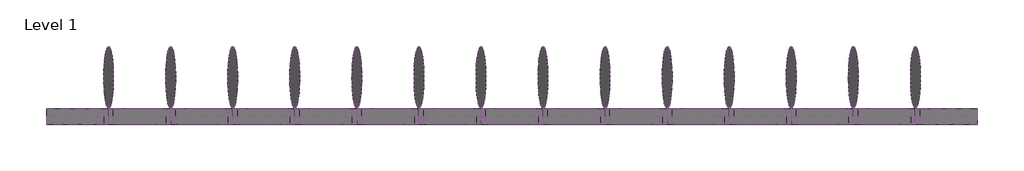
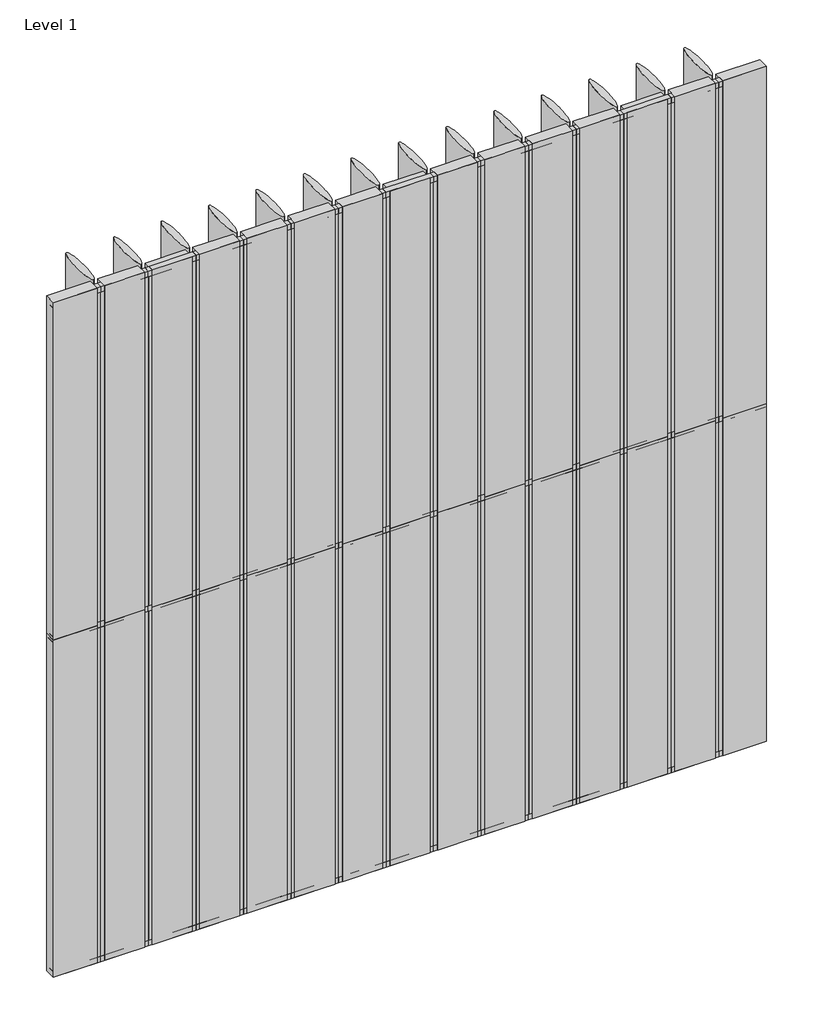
# One storey: 73 members, 60 plates.
"""IFC4 building model written with IfcOpenShell, lengths in millimetres."""

from ifc_helpers import new_model, si_unit, origin, place, context, project, spatial, transform, mapped, element, save
from components import rectangular_mullion_a010c3f5, rectangular_mullion_05cc9e47, rectangular_mullion_4a4034a1, rectangular_mullion_3c6e38bc, empty_system_panel_empty_62c335ea, empty_system_panel_empty_2a52b589, empty_system_panel_empty_361e841d

model = new_model("IFC4")

# Units and contexts
model_context = context("Model", 3, world=origin())
ifc_project = project(units=[si_unit("LENGTHUNIT", "METRE", prefix="MILLI")], contexts=[model_context])

# Site, building, storey
site = spatial("IfcSite", under=ifc_project)
building = spatial("IfcBuilding", under=site)
storey = spatial("IfcBuildingStorey", under=building, Name="Level 1", Elevation=0.0)

# Members
placement = place(None, origin())
rectangular_mullion_shape = rectangular_mullion_a010c3f5(model_context)
element("IfcMember", 1, ObjectType="Rectangular Mullion : RSen_21_CWM_blade - 400 ellips - 0°_gen_duco projects", at=placement, inside=storey, context=model_context, shape_type="MappedRepresentation", body=[
    mapped(rectangular_mullion_shape, transform((5600.0, 3000.0, 0.0), x_axis=(-1.0, 0.0, 0.0), y_axis=(0.0, 1.0, 0.0), z_axis=(0.0, 0.0, -1.0))),
])
element("IfcMember", 2, ObjectType="Rectangular Mullion : RSen_21_CWM_blade - 400 ellips - 0°_gen_duco projects", at=placement, inside=storey, context=model_context, shape_type="MappedRepresentation", body=[
    mapped(rectangular_mullion_shape, transform((5200.0, 3000.0, 0.0), x_axis=(-1.0, 0.0, 0.0), y_axis=(0.0, 1.0, 0.0), z_axis=(0.0, 0.0, -1.0))),
])
element("IfcMember", 3, ObjectType="Rectangular Mullion : RSen_21_CWM_blade - 400 ellips - 0°_gen_duco projects", at=placement, inside=storey, context=model_context, shape_type="MappedRepresentation", body=[
    mapped(rectangular_mullion_shape, transform((4800.0, 3000.0, 0.0), x_axis=(-1.0, 0.0, 0.0), y_axis=(0.0, 1.0, 0.0), z_axis=(0.0, 0.0, -1.0))),
])
element("IfcMember", 4, ObjectType="Rectangular Mullion : RSen_21_CWM_blade - 400 ellips - 0°_gen_duco projects", at=placement, inside=storey, context=model_context, shape_type="MappedRepresentation", body=[
    mapped(rectangular_mullion_shape, transform((4400.0, 3000.0, 0.0), x_axis=(-1.0, 0.0, 0.0), y_axis=(0.0, 1.0, 0.0), z_axis=(0.0, 0.0, -1.0))),
])
element("IfcMember", 5, ObjectType="Rectangular Mullion : RSen_21_CWM_blade - 400 ellips - 0°_gen_duco projects", at=placement, inside=storey, context=model_context, shape_type="MappedRepresentation", body=[
    mapped(rectangular_mullion_shape, transform((4000.0, 3000.0, 0.0), x_axis=(-1.0, 0.0, 0.0), y_axis=(0.0, 1.0, 0.0), z_axis=(0.0, 0.0, -1.0))),
])
element("IfcMember", 6, ObjectType="Rectangular Mullion : RSen_21_CWM_blade - 400 ellips - 0°_gen_duco projects", at=placement, inside=storey, context=model_context, shape_type="MappedRepresentation", body=[
    mapped(rectangular_mullion_shape, transform((3600.0, 3000.0, 0.0), x_axis=(-1.0, 0.0, 0.0), y_axis=(0.0, 1.0, 0.0), z_axis=(0.0, 0.0, -1.0))),
])
element("IfcMember", 7, ObjectType="Rectangular Mullion : RSen_21_CWM_blade - 400 ellips - 0°_gen_duco projects", at=placement, inside=storey, context=model_context, shape_type="MappedRepresentation", body=[
    mapped(rectangular_mullion_shape, transform((3200.0, 3000.0, 0.0), x_axis=(-1.0, 0.0, 0.0), y_axis=(0.0, 1.0, 0.0), z_axis=(0.0, 0.0, -1.0))),
])
element("IfcMember", 8, ObjectType="Rectangular Mullion : RSen_21_CWM_blade - 400 ellips - 0°_gen_duco projects", at=placement, inside=storey, context=model_context, shape_type="MappedRepresentation", body=[
    mapped(rectangular_mullion_shape, transform((2800.0, 3000.0, 0.0), x_axis=(-1.0, 0.0, 0.0), y_axis=(0.0, 1.0, 0.0), z_axis=(0.0, 0.0, -1.0))),
])
element("IfcMember", 9, ObjectType="Rectangular Mullion : RSen_21_CWM_blade - 400 ellips - 0°_gen_duco projects", at=placement, inside=storey, context=model_context, shape_type="MappedRepresentation", body=[
    mapped(rectangular_mullion_shape, transform((2400.0, 3000.0, 0.0), x_axis=(-1.0, 0.0, 0.0), y_axis=(0.0, 1.0, 0.0), z_axis=(0.0, 0.0, -1.0))),
])
element("IfcMember", 10, ObjectType="Rectangular Mullion : RSen_21_CWM_blade - 400 ellips - 0°_gen_duco projects", at=placement, inside=storey, context=model_context, shape_type="MappedRepresentation", body=[
    mapped(rectangular_mullion_shape, transform((2000.0, 3000.0, 0.0), x_axis=(-1.0, 0.0, 0.0), y_axis=(0.0, 1.0, 0.0), z_axis=(0.0, 0.0, -1.0))),
])
element("IfcMember", 11, ObjectType="Rectangular Mullion : RSen_21_CWM_blade - 400 ellips - 0°_gen_duco projects", at=placement, inside=storey, context=model_context, shape_type="MappedRepresentation", body=[
    mapped(rectangular_mullion_shape, transform((1600.0, 3000.0, 0.0), x_axis=(-1.0, 0.0, 0.0), y_axis=(0.0, 1.0, 0.0), z_axis=(0.0, 0.0, -1.0))),
])
element("IfcMember", 12, ObjectType="Rectangular Mullion : RSen_21_CWM_blade - 400 ellips - 0°_gen_duco projects", at=placement, inside=storey, context=model_context, shape_type="MappedRepresentation", body=[
    mapped(rectangular_mullion_shape, transform((1200.0, 3000.0, 0.0), x_axis=(-1.0, 0.0, 0.0), y_axis=(0.0, 1.0, 0.0), z_axis=(0.0, 0.0, -1.0))),
])
element("IfcMember", 13, ObjectType="Rectangular Mullion : RSen_21_CWM_blade - 400 ellips - 0°_gen_duco projects", at=placement, inside=storey, context=model_context, shape_type="MappedRepresentation", body=[
    mapped(rectangular_mullion_shape, transform((800.0, 3000.0, 0.0), x_axis=(-1.0, 0.0, 0.0), y_axis=(0.0, 1.0, 0.0), z_axis=(0.0, 0.0, -1.0))),
])
element("IfcMember", 14, ObjectType="Rectangular Mullion : RSen_21_CWM_blade - 400 ellips - 0°_gen_duco projects", at=placement, inside=storey, context=model_context, shape_type="MappedRepresentation", body=[
    mapped(rectangular_mullion_shape, transform((400.0, 3000.0, 0.0), x_axis=(-1.0, 0.0, 0.0), y_axis=(0.0, 1.0, 0.0), z_axis=(0.0, 0.0, -1.0))),
])
element("IfcMember", 15, ObjectType="Rectangular Mullion : RSen_21_CWM_blade - 400 ellips - 0°_gen_duco projects", at=placement, inside=storey, context=model_context, shape_type="MappedRepresentation", body=[
    mapped(rectangular_mullion_shape, transform((5600.0, 3000.0, 3000.0), x_axis=(-1.0, 0.0, 0.0), y_axis=(0.0, 1.0, 0.0), z_axis=(0.0, 0.0, -1.0))),
])
element("IfcMember", 16, ObjectType="Rectangular Mullion : RSen_21_CWM_blade - 400 ellips - 0°_gen_duco projects", at=placement, inside=storey, context=model_context, shape_type="MappedRepresentation", body=[
    mapped(rectangular_mullion_shape, transform((5200.0, 3000.0, 3000.0), x_axis=(-1.0, 0.0, 0.0), y_axis=(0.0, 1.0, 0.0), z_axis=(0.0, 0.0, -1.0))),
])
element("IfcMember", 17, ObjectType="Rectangular Mullion : RSen_21_CWM_blade - 400 ellips - 0°_gen_duco projects", at=placement, inside=storey, context=model_context, shape_type="MappedRepresentation", body=[
    mapped(rectangular_mullion_shape, transform((4800.0, 3000.0, 3000.0), x_axis=(-1.0, 0.0, 0.0), y_axis=(0.0, 1.0, 0.0), z_axis=(0.0, 0.0, -1.0))),
])
element("IfcMember", 18, ObjectType="Rectangular Mullion : RSen_21_CWM_blade - 400 ellips - 0°_gen_duco projects", at=placement, inside=storey, context=model_context, shape_type="MappedRepresentation", body=[
    mapped(rectangular_mullion_shape, transform((4400.0, 3000.0, 3000.0), x_axis=(-1.0, 0.0, 0.0), y_axis=(0.0, 1.0, 0.0), z_axis=(0.0, 0.0, -1.0))),
])
element("IfcMember", 19, ObjectType="Rectangular Mullion : RSen_21_CWM_blade - 400 ellips - 0°_gen_duco projects", at=placement, inside=storey, context=model_context, shape_type="MappedRepresentation", body=[
    mapped(rectangular_mullion_shape, transform((4000.0, 3000.0, 3000.0), x_axis=(-1.0, 0.0, 0.0), y_axis=(0.0, 1.0, 0.0), z_axis=(0.0, 0.0, -1.0))),
])
element("IfcMember", 20, ObjectType="Rectangular Mullion : RSen_21_CWM_blade - 400 ellips - 0°_gen_duco projects", at=placement, inside=storey, context=model_context, shape_type="MappedRepresentation", body=[
    mapped(rectangular_mullion_shape, transform((3600.0, 3000.0, 3000.0), x_axis=(-1.0, 0.0, 0.0), y_axis=(0.0, 1.0, 0.0), z_axis=(0.0, 0.0, -1.0))),
])
element("IfcMember", 21, ObjectType="Rectangular Mullion : RSen_21_CWM_blade - 400 ellips - 0°_gen_duco projects", at=placement, inside=storey, context=model_context, shape_type="MappedRepresentation", body=[
    mapped(rectangular_mullion_shape, transform((3200.0, 3000.0, 3000.0), x_axis=(-1.0, 0.0, 0.0), y_axis=(0.0, 1.0, 0.0), z_axis=(0.0, 0.0, -1.0))),
])
element("IfcMember", 22, ObjectType="Rectangular Mullion : RSen_21_CWM_blade - 400 ellips - 0°_gen_duco projects", at=placement, inside=storey, context=model_context, shape_type="MappedRepresentation", body=[
    mapped(rectangular_mullion_shape, transform((2800.0, 3000.0, 3000.0), x_axis=(-1.0, 0.0, 0.0), y_axis=(0.0, 1.0, 0.0), z_axis=(0.0, 0.0, -1.0))),
])
element("IfcMember", 23, ObjectType="Rectangular Mullion : RSen_21_CWM_blade - 400 ellips - 0°_gen_duco projects", at=placement, inside=storey, context=model_context, shape_type="MappedRepresentation", body=[
    mapped(rectangular_mullion_shape, transform((2400.0, 3000.0, 3000.0), x_axis=(-1.0, 0.0, 0.0), y_axis=(0.0, 1.0, 0.0), z_axis=(0.0, 0.0, -1.0))),
])
element("IfcMember", 24, ObjectType="Rectangular Mullion : RSen_21_CWM_blade - 400 ellips - 0°_gen_duco projects", at=placement, inside=storey, context=model_context, shape_type="MappedRepresentation", body=[
    mapped(rectangular_mullion_shape, transform((2000.0, 3000.0, 3000.0), x_axis=(-1.0, 0.0, 0.0), y_axis=(0.0, 1.0, 0.0), z_axis=(0.0, 0.0, -1.0))),
])
element("IfcMember", 25, ObjectType="Rectangular Mullion : RSen_21_CWM_blade - 400 ellips - 0°_gen_duco projects", at=placement, inside=storey, context=model_context, shape_type="MappedRepresentation", body=[
    mapped(rectangular_mullion_shape, transform((1600.0, 3000.0, 3000.0), x_axis=(-1.0, 0.0, 0.0), y_axis=(0.0, 1.0, 0.0), z_axis=(0.0, 0.0, -1.0))),
])
element("IfcMember", 26, ObjectType="Rectangular Mullion : RSen_21_CWM_blade - 400 ellips - 0°_gen_duco projects", at=placement, inside=storey, context=model_context, shape_type="MappedRepresentation", body=[
    mapped(rectangular_mullion_shape, transform((1200.0, 3000.0, 3000.0), x_axis=(-1.0, 0.0, 0.0), y_axis=(0.0, 1.0, 0.0), z_axis=(0.0, 0.0, -1.0))),
])
element("IfcMember", 27, ObjectType="Rectangular Mullion : RSen_21_CWM_blade - 400 ellips - 0°_gen_duco projects", at=placement, inside=storey, context=model_context, shape_type="MappedRepresentation", body=[
    mapped(rectangular_mullion_shape, transform((800.0, 3000.0, 3000.0), x_axis=(-1.0, 0.0, 0.0), y_axis=(0.0, 1.0, 0.0), z_axis=(0.0, 0.0, -1.0))),
])
element("IfcMember", 28, ObjectType="Rectangular Mullion : RSen_21_CWM_blade - 400 ellips - 0°_gen_duco projects", at=placement, inside=storey, context=model_context, shape_type="MappedRepresentation", body=[
    mapped(rectangular_mullion_shape, transform((400.0, 3000.0, 3000.0), x_axis=(-1.0, 0.0, 0.0), y_axis=(0.0, 1.0, 0.0), z_axis=(0.0, 0.0, -1.0))),
])
rectangular_mullion_2_shape = rectangular_mullion_05cc9e47(model_context)
element("IfcMember", 29, ObjectType="Rectangular Mullion : RSen_21_CWM_support profile 50x50 - left_gen_duco projects", at=placement, inside=storey, context=model_context, shape_type="MappedRepresentation", body=[
    mapped(rectangular_mullion_2_shape, transform((0.0, 3000.0, 6000.0), x_axis=(0.0, 0.0, 1.0), y_axis=(0.0, 1.0, 0.0), z_axis=(-1.0, 0.0, 0.0))),
])
rectangular_mullion_3_shape = rectangular_mullion_4a4034a1(model_context)
element("IfcMember", 30, ObjectType="Rectangular Mullion : RSen_21_CWM_support profile 50x50 - right_gen_duco projects", at=placement, inside=storey, context=model_context, shape_type="MappedRepresentation", body=[
    mapped(rectangular_mullion_3_shape, transform((6000.0, 3000.0, 0.0), x_axis=(0.0, 0.0, -1.0), y_axis=(0.0, 1.0, 0.0), z_axis=(1.0, 0.0, 0.0))),
])
element("IfcMember", 31, ObjectType="Rectangular Mullion : RSen_21_CWM_support profile 50x50 - left_gen_duco projects", at=placement, inside=storey, context=model_context, shape_type="MappedRepresentation", body=[
    mapped(rectangular_mullion_2_shape, transform((5600.0, 3000.0, 6000.0), x_axis=(0.0, 0.0, 1.0), y_axis=(0.0, 1.0, 0.0), z_axis=(-1.0, 0.0, 0.0))),
])
element("IfcMember", 32, ObjectType="Rectangular Mullion : RSen_21_CWM_support profile 50x50 - left_gen_duco projects", at=placement, inside=storey, context=model_context, shape_type="MappedRepresentation", body=[
    mapped(rectangular_mullion_2_shape, transform((5200.0, 3000.0, 6000.0), x_axis=(0.0, 0.0, 1.0), y_axis=(0.0, 1.0, 0.0), z_axis=(-1.0, 0.0, 0.0))),
])
element("IfcMember", 33, ObjectType="Rectangular Mullion : RSen_21_CWM_support profile 50x50 - left_gen_duco projects", at=placement, inside=storey, context=model_context, shape_type="MappedRepresentation", body=[
    mapped(rectangular_mullion_2_shape, transform((4800.0, 3000.0, 6000.0), x_axis=(0.0, 0.0, 1.0), y_axis=(0.0, 1.0, 0.0), z_axis=(-1.0, 0.0, 0.0))),
])
element("IfcMember", 34, ObjectType="Rectangular Mullion : RSen_21_CWM_support profile 50x50 - left_gen_duco projects", at=placement, inside=storey, context=model_context, shape_type="MappedRepresentation", body=[
    mapped(rectangular_mullion_2_shape, transform((4400.0, 3000.0, 6000.0), x_axis=(0.0, 0.0, 1.0), y_axis=(0.0, 1.0, 0.0), z_axis=(-1.0, 0.0, 0.0))),
])
element("IfcMember", 35, ObjectType="Rectangular Mullion : RSen_21_CWM_support profile 50x50 - left_gen_duco projects", at=placement, inside=storey, context=model_context, shape_type="MappedRepresentation", body=[
    mapped(rectangular_mullion_2_shape, transform((4000.0, 3000.0, 6000.0), x_axis=(0.0, 0.0, 1.0), y_axis=(0.0, 1.0, 0.0), z_axis=(-1.0, 0.0, 0.0))),
])
element("IfcMember", 36, ObjectType="Rectangular Mullion : RSen_21_CWM_support profile 50x50 - left_gen_duco projects", at=placement, inside=storey, context=model_context, shape_type="MappedRepresentation", body=[
    mapped(rectangular_mullion_2_shape, transform((3600.0, 3000.0, 6000.0), x_axis=(0.0, 0.0, 1.0), y_axis=(0.0, 1.0, 0.0), z_axis=(-1.0, 0.0, 0.0))),
])
element("IfcMember", 37, ObjectType="Rectangular Mullion : RSen_21_CWM_support profile 50x50 - left_gen_duco projects", at=placement, inside=storey, context=model_context, shape_type="MappedRepresentation", body=[
    mapped(rectangular_mullion_2_shape, transform((3200.0, 3000.0, 6000.0), x_axis=(0.0, 0.0, 1.0), y_axis=(0.0, 1.0, 0.0), z_axis=(-1.0, 0.0, 0.0))),
])
element("IfcMember", 38, ObjectType="Rectangular Mullion : RSen_21_CWM_support profile 50x50 - left_gen_duco projects", at=placement, inside=storey, context=model_context, shape_type="MappedRepresentation", body=[
    mapped(rectangular_mullion_2_shape, transform((2800.0, 3000.0, 6000.0), x_axis=(0.0, 0.0, 1.0), y_axis=(0.0, 1.0, 0.0), z_axis=(-1.0, 0.0, 0.0))),
])
element("IfcMember", 39, ObjectType="Rectangular Mullion : RSen_21_CWM_support profile 50x50 - left_gen_duco projects", at=placement, inside=storey, context=model_context, shape_type="MappedRepresentation", body=[
    mapped(rectangular_mullion_2_shape, transform((2400.0, 3000.0, 6000.0), x_axis=(0.0, 0.0, 1.0), y_axis=(0.0, 1.0, 0.0), z_axis=(-1.0, 0.0, 0.0))),
])
element("IfcMember", 40, ObjectType="Rectangular Mullion : RSen_21_CWM_support profile 50x50 - left_gen_duco projects", at=placement, inside=storey, context=model_context, shape_type="MappedRepresentation", body=[
    mapped(rectangular_mullion_2_shape, transform((2000.0, 3000.0, 6000.0), x_axis=(0.0, 0.0, 1.0), y_axis=(0.0, 1.0, 0.0), z_axis=(-1.0, 0.0, 0.0))),
])
element("IfcMember", 41, ObjectType="Rectangular Mullion : RSen_21_CWM_support profile 50x50 - left_gen_duco projects", at=placement, inside=storey, context=model_context, shape_type="MappedRepresentation", body=[
    mapped(rectangular_mullion_2_shape, transform((1600.0, 3000.0, 6000.0), x_axis=(0.0, 0.0, 1.0), y_axis=(0.0, 1.0, 0.0), z_axis=(-1.0, 0.0, 0.0))),
])
element("IfcMember", 42, ObjectType="Rectangular Mullion : RSen_21_CWM_support profile 50x50 - left_gen_duco projects", at=placement, inside=storey, context=model_context, shape_type="MappedRepresentation", body=[
    mapped(rectangular_mullion_2_shape, transform((1200.0, 3000.0, 6000.0), x_axis=(0.0, 0.0, 1.0), y_axis=(0.0, 1.0, 0.0), z_axis=(-1.0, 0.0, 0.0))),
])
element("IfcMember", 43, ObjectType="Rectangular Mullion : RSen_21_CWM_support profile 50x50 - left_gen_duco projects", at=placement, inside=storey, context=model_context, shape_type="MappedRepresentation", body=[
    mapped(rectangular_mullion_2_shape, transform((800.0, 3000.0, 6000.0), x_axis=(0.0, 0.0, 1.0), y_axis=(0.0, 1.0, 0.0), z_axis=(-1.0, 0.0, 0.0))),
])
element("IfcMember", 44, ObjectType="Rectangular Mullion : RSen_21_CWM_support profile 50x50 - left_gen_duco projects", at=placement, inside=storey, context=model_context, shape_type="MappedRepresentation", body=[
    mapped(rectangular_mullion_2_shape, transform((400.0, 3000.0, 6000.0), x_axis=(0.0, 0.0, 1.0), y_axis=(0.0, 1.0, 0.0), z_axis=(-1.0, 0.0, 0.0))),
])
element("IfcMember", 45, ObjectType="Rectangular Mullion : RSen_21_CWM_support profile 50x50 - right_gen_duco projects", at=placement, inside=storey, context=model_context, shape_type="MappedRepresentation", body=[
    mapped(rectangular_mullion_3_shape, transform((5600.0, 3000.0, 0.0), x_axis=(0.0, 0.0, -1.0), y_axis=(0.0, 1.0, 0.0), z_axis=(1.0, 0.0, 0.0))),
])
element("IfcMember", 46, ObjectType="Rectangular Mullion : RSen_21_CWM_support profile 50x50 - right_gen_duco projects", at=placement, inside=storey, context=model_context, shape_type="MappedRepresentation", body=[
    mapped(rectangular_mullion_3_shape, transform((5200.0, 3000.0, 0.0), x_axis=(0.0, 0.0, -1.0), y_axis=(0.0, 1.0, 0.0), z_axis=(1.0, 0.0, 0.0))),
])
element("IfcMember", 47, ObjectType="Rectangular Mullion : RSen_21_CWM_support profile 50x50 - right_gen_duco projects", at=placement, inside=storey, context=model_context, shape_type="MappedRepresentation", body=[
    mapped(rectangular_mullion_3_shape, transform((4800.0, 3000.0, 0.0), x_axis=(0.0, 0.0, -1.0), y_axis=(0.0, 1.0, 0.0), z_axis=(1.0, 0.0, 0.0))),
])
element("IfcMember", 48, ObjectType="Rectangular Mullion : RSen_21_CWM_support profile 50x50 - right_gen_duco projects", at=placement, inside=storey, context=model_context, shape_type="MappedRepresentation", body=[
    mapped(rectangular_mullion_3_shape, transform((4400.0, 3000.0, 0.0), x_axis=(0.0, 0.0, -1.0), y_axis=(0.0, 1.0, 0.0), z_axis=(1.0, 0.0, 0.0))),
])
element("IfcMember", 49, ObjectType="Rectangular Mullion : RSen_21_CWM_support profile 50x50 - right_gen_duco projects", at=placement, inside=storey, context=model_context, shape_type="MappedRepresentation", body=[
    mapped(rectangular_mullion_3_shape, transform((4000.0, 3000.0, 0.0), x_axis=(0.0, 0.0, -1.0), y_axis=(0.0, 1.0, 0.0), z_axis=(1.0, 0.0, 0.0))),
])
element("IfcMember", 50, ObjectType="Rectangular Mullion : RSen_21_CWM_support profile 50x50 - right_gen_duco projects", at=placement, inside=storey, context=model_context, shape_type="MappedRepresentation", body=[
    mapped(rectangular_mullion_3_shape, transform((3600.0, 3000.0, 0.0), x_axis=(0.0, 0.0, -1.0), y_axis=(0.0, 1.0, 0.0), z_axis=(1.0, 0.0, 0.0))),
])
element("IfcMember", 51, ObjectType="Rectangular Mullion : RSen_21_CWM_support profile 50x50 - right_gen_duco projects", at=placement, inside=storey, context=model_context, shape_type="MappedRepresentation", body=[
    mapped(rectangular_mullion_3_shape, transform((3200.0, 3000.0, 0.0), x_axis=(0.0, 0.0, -1.0), y_axis=(0.0, 1.0, 0.0), z_axis=(1.0, 0.0, 0.0))),
])
element("IfcMember", 52, ObjectType="Rectangular Mullion : RSen_21_CWM_support profile 50x50 - right_gen_duco projects", at=placement, inside=storey, context=model_context, shape_type="MappedRepresentation", body=[
    mapped(rectangular_mullion_3_shape, transform((2800.0, 3000.0, 0.0), x_axis=(0.0, 0.0, -1.0), y_axis=(0.0, 1.0, 0.0), z_axis=(1.0, 0.0, 0.0))),
])
element("IfcMember", 53, ObjectType="Rectangular Mullion : RSen_21_CWM_support profile 50x50 - right_gen_duco projects", at=placement, inside=storey, context=model_context, shape_type="MappedRepresentation", body=[
    mapped(rectangular_mullion_3_shape, transform((2400.0, 3000.0, 0.0), x_axis=(0.0, 0.0, -1.0), y_axis=(0.0, 1.0, 0.0), z_axis=(1.0, 0.0, 0.0))),
])
element("IfcMember", 54, ObjectType="Rectangular Mullion : RSen_21_CWM_support profile 50x50 - right_gen_duco projects", at=placement, inside=storey, context=model_context, shape_type="MappedRepresentation", body=[
    mapped(rectangular_mullion_3_shape, transform((2000.0, 3000.0, 0.0), x_axis=(0.0, 0.0, -1.0), y_axis=(0.0, 1.0, 0.0), z_axis=(1.0, 0.0, 0.0))),
])
element("IfcMember", 55, ObjectType="Rectangular Mullion : RSen_21_CWM_support profile 50x50 - right_gen_duco projects", at=placement, inside=storey, context=model_context, shape_type="MappedRepresentation", body=[
    mapped(rectangular_mullion_3_shape, transform((1600.0, 3000.0, 0.0), x_axis=(0.0, 0.0, -1.0), y_axis=(0.0, 1.0, 0.0), z_axis=(1.0, 0.0, 0.0))),
])
element("IfcMember", 56, ObjectType="Rectangular Mullion : RSen_21_CWM_support profile 50x50 - right_gen_duco projects", at=placement, inside=storey, context=model_context, shape_type="MappedRepresentation", body=[
    mapped(rectangular_mullion_3_shape, transform((1200.0, 3000.0, 0.0), x_axis=(0.0, 0.0, -1.0), y_axis=(0.0, 1.0, 0.0), z_axis=(1.0, 0.0, 0.0))),
])
element("IfcMember", 57, ObjectType="Rectangular Mullion : RSen_21_CWM_support profile 50x50 - right_gen_duco projects", at=placement, inside=storey, context=model_context, shape_type="MappedRepresentation", body=[
    mapped(rectangular_mullion_3_shape, transform((800.0, 3000.0, 0.0), x_axis=(0.0, 0.0, -1.0), y_axis=(0.0, 1.0, 0.0), z_axis=(1.0, 0.0, 0.0))),
])
element("IfcMember", 58, ObjectType="Rectangular Mullion : RSen_21_CWM_support profile 50x50 - right_gen_duco projects", at=placement, inside=storey, context=model_context, shape_type="MappedRepresentation", body=[
    mapped(rectangular_mullion_3_shape, transform((400.0, 3000.0, 0.0), x_axis=(0.0, 0.0, -1.0), y_axis=(0.0, 1.0, 0.0), z_axis=(1.0, 0.0, 0.0))),
])
rectangular_mullion_4_shape = rectangular_mullion_3c6e38bc(model_context)
element("IfcMember", 59, ObjectType="Rectangular Mullion : RSen_21_CWM_support profile 50x50_gen_duco projects", at=placement, inside=storey, context=model_context, shape_type="MappedRepresentation", body=[
    mapped(rectangular_mullion_4_shape, transform((5600.0, 3000.0, 3000.0), x_axis=(0.0, 0.0, 1.0), y_axis=(0.0, 1.0, 0.0), z_axis=(-1.0, 0.0, 0.0))),
])
element("IfcMember", 60, ObjectType="Rectangular Mullion : RSen_21_CWM_support profile 50x50_gen_duco projects", at=placement, inside=storey, context=model_context, shape_type="MappedRepresentation", body=[
    mapped(rectangular_mullion_4_shape, transform((5200.0, 3000.0, 3000.0), x_axis=(0.0, 0.0, 1.0), y_axis=(0.0, 1.0, 0.0), z_axis=(-1.0, 0.0, 0.0))),
])
element("IfcMember", 61, ObjectType="Rectangular Mullion : RSen_21_CWM_support profile 50x50_gen_duco projects", at=placement, inside=storey, context=model_context, shape_type="MappedRepresentation", body=[
    mapped(rectangular_mullion_4_shape, transform((4800.0, 3000.0, 3000.0), x_axis=(0.0, 0.0, 1.0), y_axis=(0.0, 1.0, 0.0), z_axis=(-1.0, 0.0, 0.0))),
])
element("IfcMember", 62, ObjectType="Rectangular Mullion : RSen_21_CWM_support profile 50x50_gen_duco projects", at=placement, inside=storey, context=model_context, shape_type="MappedRepresentation", body=[
    mapped(rectangular_mullion_4_shape, transform((4400.0, 3000.0, 3000.0), x_axis=(0.0, 0.0, 1.0), y_axis=(0.0, 1.0, 0.0), z_axis=(-1.0, 0.0, 0.0))),
])
element("IfcMember", 63, ObjectType="Rectangular Mullion : RSen_21_CWM_support profile 50x50_gen_duco projects", at=placement, inside=storey, context=model_context, shape_type="MappedRepresentation", body=[
    mapped(rectangular_mullion_4_shape, transform((4000.0, 3000.0, 3000.0), x_axis=(0.0, 0.0, 1.0), y_axis=(0.0, 1.0, 0.0), z_axis=(-1.0, 0.0, 0.0))),
])
element("IfcMember", 64, ObjectType="Rectangular Mullion : RSen_21_CWM_support profile 50x50_gen_duco projects", at=placement, inside=storey, context=model_context, shape_type="MappedRepresentation", body=[
    mapped(rectangular_mullion_4_shape, transform((3600.0, 3000.0, 3000.0), x_axis=(0.0, 0.0, 1.0), y_axis=(0.0, 1.0, 0.0), z_axis=(-1.0, 0.0, 0.0))),
])
element("IfcMember", 65, ObjectType="Rectangular Mullion : RSen_21_CWM_support profile 50x50_gen_duco projects", at=placement, inside=storey, context=model_context, shape_type="MappedRepresentation", body=[
    mapped(rectangular_mullion_4_shape, transform((3200.0, 3000.0, 3000.0), x_axis=(0.0, 0.0, 1.0), y_axis=(0.0, 1.0, 0.0), z_axis=(-1.0, 0.0, 0.0))),
])
element("IfcMember", 66, ObjectType="Rectangular Mullion : RSen_21_CWM_support profile 50x50_gen_duco projects", at=placement, inside=storey, context=model_context, shape_type="MappedRepresentation", body=[
    mapped(rectangular_mullion_4_shape, transform((2800.0, 3000.0, 3000.0), x_axis=(0.0, 0.0, 1.0), y_axis=(0.0, 1.0, 0.0), z_axis=(-1.0, 0.0, 0.0))),
])
element("IfcMember", 67, ObjectType="Rectangular Mullion : RSen_21_CWM_support profile 50x50_gen_duco projects", at=placement, inside=storey, context=model_context, shape_type="MappedRepresentation", body=[
    mapped(rectangular_mullion_4_shape, transform((2400.0, 3000.0, 3000.0), x_axis=(0.0, 0.0, 1.0), y_axis=(0.0, 1.0, 0.0), z_axis=(-1.0, 0.0, 0.0))),
])
element("IfcMember", 68, ObjectType="Rectangular Mullion : RSen_21_CWM_support profile 50x50_gen_duco projects", at=placement, inside=storey, context=model_context, shape_type="MappedRepresentation", body=[
    mapped(rectangular_mullion_4_shape, transform((2000.0, 3000.0, 3000.0), x_axis=(0.0, 0.0, 1.0), y_axis=(0.0, 1.0, 0.0), z_axis=(-1.0, 0.0, 0.0))),
])
element("IfcMember", 69, ObjectType="Rectangular Mullion : RSen_21_CWM_support profile 50x50_gen_duco projects", at=placement, inside=storey, context=model_context, shape_type="MappedRepresentation", body=[
    mapped(rectangular_mullion_4_shape, transform((1600.0, 3000.0, 3000.0), x_axis=(0.0, 0.0, 1.0), y_axis=(0.0, 1.0, 0.0), z_axis=(-1.0, 0.0, 0.0))),
])
element("IfcMember", 70, ObjectType="Rectangular Mullion : RSen_21_CWM_support profile 50x50_gen_duco projects", at=placement, inside=storey, context=model_context, shape_type="MappedRepresentation", body=[
    mapped(rectangular_mullion_4_shape, transform((1200.0, 3000.0, 3000.0), x_axis=(0.0, 0.0, 1.0), y_axis=(0.0, 1.0, 0.0), z_axis=(-1.0, 0.0, 0.0))),
])
element("IfcMember", 71, ObjectType="Rectangular Mullion : RSen_21_CWM_support profile 50x50_gen_duco projects", at=placement, inside=storey, context=model_context, shape_type="MappedRepresentation", body=[
    mapped(rectangular_mullion_4_shape, transform((800.0, 3000.0, 3000.0), x_axis=(0.0, 0.0, 1.0), y_axis=(0.0, 1.0, 0.0), z_axis=(-1.0, 0.0, 0.0))),
])
element("IfcMember", 72, ObjectType="Rectangular Mullion : RSen_21_CWM_support profile 50x50_gen_duco projects", at=placement, inside=storey, context=model_context, shape_type="MappedRepresentation", body=[
    mapped(rectangular_mullion_4_shape, transform((400.0, 3000.0, 3000.0), x_axis=(0.0, 0.0, 1.0), y_axis=(0.0, 1.0, 0.0), z_axis=(-1.0, 0.0, 0.0))),
])
element("IfcMember", 73, ObjectType="Rectangular Mullion : RSen_21_CWM_support profile 50x50_gen_duco projects", at=placement, inside=storey, context=model_context, shape_type="MappedRepresentation", body=[
    mapped(rectangular_mullion_4_shape, transform((0.0, 3000.0, 3000.0), x_axis=(0.0, 0.0, 1.0), y_axis=(0.0, 1.0, 0.0), z_axis=(-1.0, 0.0, 0.0))),
])

# Plates
empty_system_panel_empty_shape = empty_system_panel_empty_62c335ea(model_context)
element("IfcPlate", 74, ObjectType="Empty System Panel : Empty", at=placement, inside=storey, context=model_context, shape_type="MappedRepresentation", body=[
    mapped(empty_system_panel_empty_shape, transform((5815.75, 3000.0, 0.0), x_axis=(-1.0, 0.0, 0.0), y_axis=(0.0, -1.0, 0.0), z_axis=(0.0, 0.0, 1.0))),
])
element("IfcPlate", 75, ObjectType="Empty System Panel : Empty", at=placement, inside=storey, context=model_context, shape_type="MappedRepresentation", body=[
    mapped(empty_system_panel_empty_shape, transform((184.25, 3000.0, 0.0), x_axis=(-1.0, 0.0, 0.0), y_axis=(0.0, -1.0, 0.0), z_axis=(0.0, 0.0, 1.0))),
])
element("IfcPlate", 76, ObjectType="Empty System Panel : Empty", at=placement, inside=storey, context=model_context, shape_type="MappedRepresentation", body=[
    mapped(empty_system_panel_empty_shape, transform((5815.75, 3000.0, 3000.0), x_axis=(-1.0, 0.0, 0.0), y_axis=(0.0, -1.0, 0.0), z_axis=(0.0, 0.0, 1.0))),
])
element("IfcPlate", 77, ObjectType="Empty System Panel : Empty", at=placement, inside=storey, context=model_context, shape_type="MappedRepresentation", body=[
    mapped(empty_system_panel_empty_shape, transform((184.25, 3000.0, 3000.0), x_axis=(-1.0, 0.0, 0.0), y_axis=(0.0, -1.0, 0.0), z_axis=(0.0, 0.0, 1.0))),
])
empty_system_panel_empty_2_shape = empty_system_panel_empty_2a52b589(model_context)
element("IfcPlate", 78, ObjectType="Empty System Panel : Empty", at=placement, inside=storey, context=model_context, shape_type="MappedRepresentation", body=[
    mapped(empty_system_panel_empty_2_shape, transform((5400.0, 3000.0, 0.0), x_axis=(-1.0, 0.0, 0.0), y_axis=(0.0, -1.0, 0.0), z_axis=(0.0, 0.0, 1.0))),
])
element("IfcPlate", 79, ObjectType="Empty System Panel : Empty", at=placement, inside=storey, context=model_context, shape_type="MappedRepresentation", body=[
    mapped(empty_system_panel_empty_2_shape, transform((5000.0, 3000.0, 0.0), x_axis=(-1.0, 0.0, 0.0), y_axis=(0.0, -1.0, 0.0), z_axis=(0.0, 0.0, 1.0))),
])
element("IfcPlate", 80, ObjectType="Empty System Panel : Empty", at=placement, inside=storey, context=model_context, shape_type="MappedRepresentation", body=[
    mapped(empty_system_panel_empty_2_shape, transform((4600.0, 3000.0, 0.0), x_axis=(-1.0, 0.0, 0.0), y_axis=(0.0, -1.0, 0.0), z_axis=(0.0, 0.0, 1.0))),
])
element("IfcPlate", 81, ObjectType="Empty System Panel : Empty", at=placement, inside=storey, context=model_context, shape_type="MappedRepresentation", body=[
    mapped(empty_system_panel_empty_2_shape, transform((4200.0, 3000.0, 0.0), x_axis=(-1.0, 0.0, 0.0), y_axis=(0.0, -1.0, 0.0), z_axis=(0.0, 0.0, 1.0))),
])
element("IfcPlate", 82, ObjectType="Empty System Panel : Empty", at=placement, inside=storey, context=model_context, shape_type="MappedRepresentation", body=[
    mapped(empty_system_panel_empty_2_shape, transform((3800.0, 3000.0, 0.0), x_axis=(-1.0, 0.0, 0.0), y_axis=(0.0, -1.0, 0.0), z_axis=(0.0, 0.0, 1.0))),
])
element("IfcPlate", 83, ObjectType="Empty System Panel : Empty", at=placement, inside=storey, context=model_context, shape_type="MappedRepresentation", body=[
    mapped(empty_system_panel_empty_2_shape, transform((3400.0, 3000.0, 0.0), x_axis=(-1.0, 0.0, 0.0), y_axis=(0.0, -1.0, 0.0), z_axis=(0.0, 0.0, 1.0))),
])
element("IfcPlate", 84, ObjectType="Empty System Panel : Empty", at=placement, inside=storey, context=model_context, shape_type="MappedRepresentation", body=[
    mapped(empty_system_panel_empty_2_shape, transform((3000.0, 3000.0, 0.0), x_axis=(-1.0, 0.0, 0.0), y_axis=(0.0, -1.0, 0.0), z_axis=(0.0, 0.0, 1.0))),
])
element("IfcPlate", 85, ObjectType="Empty System Panel : Empty", at=placement, inside=storey, context=model_context, shape_type="MappedRepresentation", body=[
    mapped(empty_system_panel_empty_2_shape, transform((2600.0, 3000.0, 0.0), x_axis=(-1.0, 0.0, 0.0), y_axis=(0.0, -1.0, 0.0), z_axis=(0.0, 0.0, 1.0))),
])
element("IfcPlate", 86, ObjectType="Empty System Panel : Empty", at=placement, inside=storey, context=model_context, shape_type="MappedRepresentation", body=[
    mapped(empty_system_panel_empty_2_shape, transform((2200.0, 3000.0, 0.0), x_axis=(-1.0, 0.0, 0.0), y_axis=(0.0, -1.0, 0.0), z_axis=(0.0, 0.0, 1.0))),
])
element("IfcPlate", 87, ObjectType="Empty System Panel : Empty", at=placement, inside=storey, context=model_context, shape_type="MappedRepresentation", body=[
    mapped(empty_system_panel_empty_2_shape, transform((1800.0, 3000.0, 0.0), x_axis=(-1.0, 0.0, 0.0), y_axis=(0.0, -1.0, 0.0), z_axis=(0.0, 0.0, 1.0))),
])
element("IfcPlate", 88, ObjectType="Empty System Panel : Empty", at=placement, inside=storey, context=model_context, shape_type="MappedRepresentation", body=[
    mapped(empty_system_panel_empty_2_shape, transform((1400.0, 3000.0, 0.0), x_axis=(-1.0, 0.0, 0.0), y_axis=(0.0, -1.0, 0.0), z_axis=(0.0, 0.0, 1.0))),
])
element("IfcPlate", 89, ObjectType="Empty System Panel : Empty", at=placement, inside=storey, context=model_context, shape_type="MappedRepresentation", body=[
    mapped(empty_system_panel_empty_2_shape, transform((1000.0, 3000.0, 0.0), x_axis=(-1.0, 0.0, 0.0), y_axis=(0.0, -1.0, 0.0), z_axis=(0.0, 0.0, 1.0))),
])
element("IfcPlate", 90, ObjectType="Empty System Panel : Empty", at=placement, inside=storey, context=model_context, shape_type="MappedRepresentation", body=[
    mapped(empty_system_panel_empty_2_shape, transform((600.0, 3000.0, 0.0), x_axis=(-1.0, 0.0, 0.0), y_axis=(0.0, -1.0, 0.0), z_axis=(0.0, 0.0, 1.0))),
])
element("IfcPlate", 91, ObjectType="Empty System Panel : Empty", at=placement, inside=storey, context=model_context, shape_type="MappedRepresentation", body=[
    mapped(empty_system_panel_empty_2_shape, transform((5400.0, 3000.0, 3000.0), x_axis=(-1.0, 0.0, 0.0), y_axis=(0.0, -1.0, 0.0), z_axis=(0.0, 0.0, 1.0))),
])
element("IfcPlate", 92, ObjectType="Empty System Panel : Empty", at=placement, inside=storey, context=model_context, shape_type="MappedRepresentation", body=[
    mapped(empty_system_panel_empty_2_shape, transform((5000.0, 3000.0, 3000.0), x_axis=(-1.0, 0.0, 0.0), y_axis=(0.0, -1.0, 0.0), z_axis=(0.0, 0.0, 1.0))),
])
element("IfcPlate", 93, ObjectType="Empty System Panel : Empty", at=placement, inside=storey, context=model_context, shape_type="MappedRepresentation", body=[
    mapped(empty_system_panel_empty_2_shape, transform((4600.0, 3000.0, 3000.0), x_axis=(-1.0, 0.0, 0.0), y_axis=(0.0, -1.0, 0.0), z_axis=(0.0, 0.0, 1.0))),
])
element("IfcPlate", 94, ObjectType="Empty System Panel : Empty", at=placement, inside=storey, context=model_context, shape_type="MappedRepresentation", body=[
    mapped(empty_system_panel_empty_2_shape, transform((4200.0, 3000.0, 3000.0), x_axis=(-1.0, 0.0, 0.0), y_axis=(0.0, -1.0, 0.0), z_axis=(0.0, 0.0, 1.0))),
])
element("IfcPlate", 95, ObjectType="Empty System Panel : Empty", at=placement, inside=storey, context=model_context, shape_type="MappedRepresentation", body=[
    mapped(empty_system_panel_empty_2_shape, transform((3800.0, 3000.0, 3000.0), x_axis=(-1.0, 0.0, 0.0), y_axis=(0.0, -1.0, 0.0), z_axis=(0.0, 0.0, 1.0))),
])
element("IfcPlate", 96, ObjectType="Empty System Panel : Empty", at=placement, inside=storey, context=model_context, shape_type="MappedRepresentation", body=[
    mapped(empty_system_panel_empty_2_shape, transform((3400.0, 3000.0, 3000.0), x_axis=(-1.0, 0.0, 0.0), y_axis=(0.0, -1.0, 0.0), z_axis=(0.0, 0.0, 1.0))),
])
element("IfcPlate", 97, ObjectType="Empty System Panel : Empty", at=placement, inside=storey, context=model_context, shape_type="MappedRepresentation", body=[
    mapped(empty_system_panel_empty_2_shape, transform((3000.0, 3000.0, 3000.0), x_axis=(-1.0, 0.0, 0.0), y_axis=(0.0, -1.0, 0.0), z_axis=(0.0, 0.0, 1.0))),
])
element("IfcPlate", 98, ObjectType="Empty System Panel : Empty", at=placement, inside=storey, context=model_context, shape_type="MappedRepresentation", body=[
    mapped(empty_system_panel_empty_2_shape, transform((2600.0, 3000.0, 3000.0), x_axis=(-1.0, 0.0, 0.0), y_axis=(0.0, -1.0, 0.0), z_axis=(0.0, 0.0, 1.0))),
])
element("IfcPlate", 99, ObjectType="Empty System Panel : Empty", at=placement, inside=storey, context=model_context, shape_type="MappedRepresentation", body=[
    mapped(empty_system_panel_empty_2_shape, transform((2200.0, 3000.0, 3000.0), x_axis=(-1.0, 0.0, 0.0), y_axis=(0.0, -1.0, 0.0), z_axis=(0.0, 0.0, 1.0))),
])
element("IfcPlate", 100, ObjectType="Empty System Panel : Empty", at=placement, inside=storey, context=model_context, shape_type="MappedRepresentation", body=[
    mapped(empty_system_panel_empty_2_shape, transform((1800.0, 3000.0, 3000.0), x_axis=(-1.0, 0.0, 0.0), y_axis=(0.0, -1.0, 0.0), z_axis=(0.0, 0.0, 1.0))),
])
element("IfcPlate", 101, ObjectType="Empty System Panel : Empty", at=placement, inside=storey, context=model_context, shape_type="MappedRepresentation", body=[
    mapped(empty_system_panel_empty_2_shape, transform((1400.0, 3000.0, 3000.0), x_axis=(-1.0, 0.0, 0.0), y_axis=(0.0, -1.0, 0.0), z_axis=(0.0, 0.0, 1.0))),
])
element("IfcPlate", 102, ObjectType="Empty System Panel : Empty", at=placement, inside=storey, context=model_context, shape_type="MappedRepresentation", body=[
    mapped(empty_system_panel_empty_2_shape, transform((1000.0, 3000.0, 3000.0), x_axis=(-1.0, 0.0, 0.0), y_axis=(0.0, -1.0, 0.0), z_axis=(0.0, 0.0, 1.0))),
])
element("IfcPlate", 103, ObjectType="Empty System Panel : Empty", at=placement, inside=storey, context=model_context, shape_type="MappedRepresentation", body=[
    mapped(empty_system_panel_empty_2_shape, transform((600.0, 3000.0, 3000.0), x_axis=(-1.0, 0.0, 0.0), y_axis=(0.0, -1.0, 0.0), z_axis=(0.0, 0.0, 1.0))),
])
empty_system_panel_empty_3_shape = empty_system_panel_empty_361e841d(model_context)
element("IfcPlate", 104, ObjectType="Empty System Panel : Empty", at=placement, inside=storey, context=model_context, shape_type="MappedRepresentation", body=[
    mapped(empty_system_panel_empty_3_shape, transform((5800.0, 3000.0, 50.0), x_axis=(-1.0, 0.0, 0.0), y_axis=(0.0, -1.0, 0.0), z_axis=(0.0, 0.0, 1.0))),
])
element("IfcPlate", 105, ObjectType="Empty System Panel : Empty", at=placement, inside=storey, context=model_context, shape_type="MappedRepresentation", body=[
    mapped(empty_system_panel_empty_3_shape, transform((5400.0, 3000.0, 50.0), x_axis=(-1.0, 0.0, 0.0), y_axis=(0.0, -1.0, 0.0), z_axis=(0.0, 0.0, 1.0))),
])
element("IfcPlate", 106, ObjectType="Empty System Panel : Empty", at=placement, inside=storey, context=model_context, shape_type="MappedRepresentation", body=[
    mapped(empty_system_panel_empty_3_shape, transform((5000.0, 3000.0, 50.0), x_axis=(-1.0, 0.0, 0.0), y_axis=(0.0, -1.0, 0.0), z_axis=(0.0, 0.0, 1.0))),
])
element("IfcPlate", 107, ObjectType="Empty System Panel : Empty", at=placement, inside=storey, context=model_context, shape_type="MappedRepresentation", body=[
    mapped(empty_system_panel_empty_3_shape, transform((4600.0, 3000.0, 50.0), x_axis=(-1.0, 0.0, 0.0), y_axis=(0.0, -1.0, 0.0), z_axis=(0.0, 0.0, 1.0))),
])
element("IfcPlate", 108, ObjectType="Empty System Panel : Empty", at=placement, inside=storey, context=model_context, shape_type="MappedRepresentation", body=[
    mapped(empty_system_panel_empty_3_shape, transform((4200.0, 3000.0, 50.0), x_axis=(-1.0, 0.0, 0.0), y_axis=(0.0, -1.0, 0.0), z_axis=(0.0, 0.0, 1.0))),
])
element("IfcPlate", 109, ObjectType="Empty System Panel : Empty", at=placement, inside=storey, context=model_context, shape_type="MappedRepresentation", body=[
    mapped(empty_system_panel_empty_3_shape, transform((3800.0, 3000.0, 50.0), x_axis=(-1.0, 0.0, 0.0), y_axis=(0.0, -1.0, 0.0), z_axis=(0.0, 0.0, 1.0))),
])
element("IfcPlate", 110, ObjectType="Empty System Panel : Empty", at=placement, inside=storey, context=model_context, shape_type="MappedRepresentation", body=[
    mapped(empty_system_panel_empty_3_shape, transform((3400.0, 3000.0, 50.0), x_axis=(-1.0, 0.0, 0.0), y_axis=(0.0, -1.0, 0.0), z_axis=(0.0, 0.0, 1.0))),
])
element("IfcPlate", 111, ObjectType="Empty System Panel : Empty", at=placement, inside=storey, context=model_context, shape_type="MappedRepresentation", body=[
    mapped(empty_system_panel_empty_3_shape, transform((3000.0, 3000.0, 50.0), x_axis=(-1.0, 0.0, 0.0), y_axis=(0.0, -1.0, 0.0), z_axis=(0.0, 0.0, 1.0))),
])
element("IfcPlate", 112, ObjectType="Empty System Panel : Empty", at=placement, inside=storey, context=model_context, shape_type="MappedRepresentation", body=[
    mapped(empty_system_panel_empty_3_shape, transform((2600.0, 3000.0, 50.0), x_axis=(-1.0, 0.0, 0.0), y_axis=(0.0, -1.0, 0.0), z_axis=(0.0, 0.0, 1.0))),
])
element("IfcPlate", 113, ObjectType="Empty System Panel : Empty", at=placement, inside=storey, context=model_context, shape_type="MappedRepresentation", body=[
    mapped(empty_system_panel_empty_3_shape, transform((2200.0, 3000.0, 50.0), x_axis=(-1.0, 0.0, 0.0), y_axis=(0.0, -1.0, 0.0), z_axis=(0.0, 0.0, 1.0))),
])
element("IfcPlate", 114, ObjectType="Empty System Panel : Empty", at=placement, inside=storey, context=model_context, shape_type="MappedRepresentation", body=[
    mapped(empty_system_panel_empty_3_shape, transform((1800.0, 3000.0, 50.0), x_axis=(-1.0, 0.0, 0.0), y_axis=(0.0, -1.0, 0.0), z_axis=(0.0, 0.0, 1.0))),
])
element("IfcPlate", 115, ObjectType="Empty System Panel : Empty", at=placement, inside=storey, context=model_context, shape_type="MappedRepresentation", body=[
    mapped(empty_system_panel_empty_3_shape, transform((1400.0, 3000.0, 50.0), x_axis=(-1.0, 0.0, 0.0), y_axis=(0.0, -1.0, 0.0), z_axis=(0.0, 0.0, 1.0))),
])
element("IfcPlate", 116, ObjectType="Empty System Panel : Empty", at=placement, inside=storey, context=model_context, shape_type="MappedRepresentation", body=[
    mapped(empty_system_panel_empty_3_shape, transform((1000.0, 3000.0, 50.0), x_axis=(-1.0, 0.0, 0.0), y_axis=(0.0, -1.0, 0.0), z_axis=(0.0, 0.0, 1.0))),
])
element("IfcPlate", 117, ObjectType="Empty System Panel : Empty", at=placement, inside=storey, context=model_context, shape_type="MappedRepresentation", body=[
    mapped(empty_system_panel_empty_3_shape, transform((600.0, 3000.0, 50.0), x_axis=(-1.0, 0.0, 0.0), y_axis=(0.0, -1.0, 0.0), z_axis=(0.0, 0.0, 1.0))),
])
element("IfcPlate", 118, ObjectType="Empty System Panel : Empty", at=placement, inside=storey, context=model_context, shape_type="MappedRepresentation", body=[
    mapped(empty_system_panel_empty_3_shape, transform((200.0, 3000.0, 50.0), x_axis=(-1.0, 0.0, 0.0), y_axis=(0.0, -1.0, 0.0), z_axis=(0.0, 0.0, 1.0))),
])
element("IfcPlate", 119, ObjectType="Empty System Panel : Empty", at=placement, inside=storey, context=model_context, shape_type="MappedRepresentation", body=[
    mapped(empty_system_panel_empty_3_shape, transform((5800.0, 3000.0, 3025.0), x_axis=(-1.0, 0.0, 0.0), y_axis=(0.0, -1.0, 0.0), z_axis=(0.0, 0.0, 1.0))),
])
element("IfcPlate", 120, ObjectType="Empty System Panel : Empty", at=placement, inside=storey, context=model_context, shape_type="MappedRepresentation", body=[
    mapped(empty_system_panel_empty_3_shape, transform((5400.0, 3000.0, 3025.0), x_axis=(-1.0, 0.0, 0.0), y_axis=(0.0, -1.0, 0.0), z_axis=(0.0, 0.0, 1.0))),
])
element("IfcPlate", 121, ObjectType="Empty System Panel : Empty", at=placement, inside=storey, context=model_context, shape_type="MappedRepresentation", body=[
    mapped(empty_system_panel_empty_3_shape, transform((5000.0, 3000.0, 3025.0), x_axis=(-1.0, 0.0, 0.0), y_axis=(0.0, -1.0, 0.0), z_axis=(0.0, 0.0, 1.0))),
])
element("IfcPlate", 122, ObjectType="Empty System Panel : Empty", at=placement, inside=storey, context=model_context, shape_type="MappedRepresentation", body=[
    mapped(empty_system_panel_empty_3_shape, transform((4600.0, 3000.0, 3025.0), x_axis=(-1.0, 0.0, 0.0), y_axis=(0.0, -1.0, 0.0), z_axis=(0.0, 0.0, 1.0))),
])
element("IfcPlate", 123, ObjectType="Empty System Panel : Empty", at=placement, inside=storey, context=model_context, shape_type="MappedRepresentation", body=[
    mapped(empty_system_panel_empty_3_shape, transform((4200.0, 3000.0, 3025.0), x_axis=(-1.0, 0.0, 0.0), y_axis=(0.0, -1.0, 0.0), z_axis=(0.0, 0.0, 1.0))),
])
element("IfcPlate", 124, ObjectType="Empty System Panel : Empty", at=placement, inside=storey, context=model_context, shape_type="MappedRepresentation", body=[
    mapped(empty_system_panel_empty_3_shape, transform((3800.0, 3000.0, 3025.0), x_axis=(-1.0, 0.0, 0.0), y_axis=(0.0, -1.0, 0.0), z_axis=(0.0, 0.0, 1.0))),
])
element("IfcPlate", 125, ObjectType="Empty System Panel : Empty", at=placement, inside=storey, context=model_context, shape_type="MappedRepresentation", body=[
    mapped(empty_system_panel_empty_3_shape, transform((3400.0, 3000.0, 3025.0), x_axis=(-1.0, 0.0, 0.0), y_axis=(0.0, -1.0, 0.0), z_axis=(0.0, 0.0, 1.0))),
])
element("IfcPlate", 126, ObjectType="Empty System Panel : Empty", at=placement, inside=storey, context=model_context, shape_type="MappedRepresentation", body=[
    mapped(empty_system_panel_empty_3_shape, transform((3000.0, 3000.0, 3025.0), x_axis=(-1.0, 0.0, 0.0), y_axis=(0.0, -1.0, 0.0), z_axis=(0.0, 0.0, 1.0))),
])
element("IfcPlate", 127, ObjectType="Empty System Panel : Empty", at=placement, inside=storey, context=model_context, shape_type="MappedRepresentation", body=[
    mapped(empty_system_panel_empty_3_shape, transform((2600.0, 3000.0, 3025.0), x_axis=(-1.0, 0.0, 0.0), y_axis=(0.0, -1.0, 0.0), z_axis=(0.0, 0.0, 1.0))),
])
element("IfcPlate", 128, ObjectType="Empty System Panel : Empty", at=placement, inside=storey, context=model_context, shape_type="MappedRepresentation", body=[
    mapped(empty_system_panel_empty_3_shape, transform((2200.0, 3000.0, 3025.0), x_axis=(-1.0, 0.0, 0.0), y_axis=(0.0, -1.0, 0.0), z_axis=(0.0, 0.0, 1.0))),
])
element("IfcPlate", 129, ObjectType="Empty System Panel : Empty", at=placement, inside=storey, context=model_context, shape_type="MappedRepresentation", body=[
    mapped(empty_system_panel_empty_3_shape, transform((1800.0, 3000.0, 3025.0), x_axis=(-1.0, 0.0, 0.0), y_axis=(0.0, -1.0, 0.0), z_axis=(0.0, 0.0, 1.0))),
])
element("IfcPlate", 130, ObjectType="Empty System Panel : Empty", at=placement, inside=storey, context=model_context, shape_type="MappedRepresentation", body=[
    mapped(empty_system_panel_empty_3_shape, transform((1400.0, 3000.0, 3025.0), x_axis=(-1.0, 0.0, 0.0), y_axis=(0.0, -1.0, 0.0), z_axis=(0.0, 0.0, 1.0))),
])
element("IfcPlate", 131, ObjectType="Empty System Panel : Empty", at=placement, inside=storey, context=model_context, shape_type="MappedRepresentation", body=[
    mapped(empty_system_panel_empty_3_shape, transform((1000.0, 3000.0, 3025.0), x_axis=(-1.0, 0.0, 0.0), y_axis=(0.0, -1.0, 0.0), z_axis=(0.0, 0.0, 1.0))),
])
element("IfcPlate", 132, ObjectType="Empty System Panel : Empty", at=placement, inside=storey, context=model_context, shape_type="MappedRepresentation", body=[
    mapped(empty_system_panel_empty_3_shape, transform((600.0, 3000.0, 3025.0), x_axis=(-1.0, 0.0, 0.0), y_axis=(0.0, -1.0, 0.0), z_axis=(0.0, 0.0, 1.0))),
])
element("IfcPlate", 133, ObjectType="Empty System Panel : Empty", at=placement, inside=storey, context=model_context, shape_type="MappedRepresentation", body=[
    mapped(empty_system_panel_empty_3_shape, transform((200.0, 3000.0, 3025.0), x_axis=(-1.0, 0.0, 0.0), y_axis=(0.0, -1.0, 0.0), z_axis=(0.0, 0.0, 1.0))),
])

save(model, "model.ifc")
